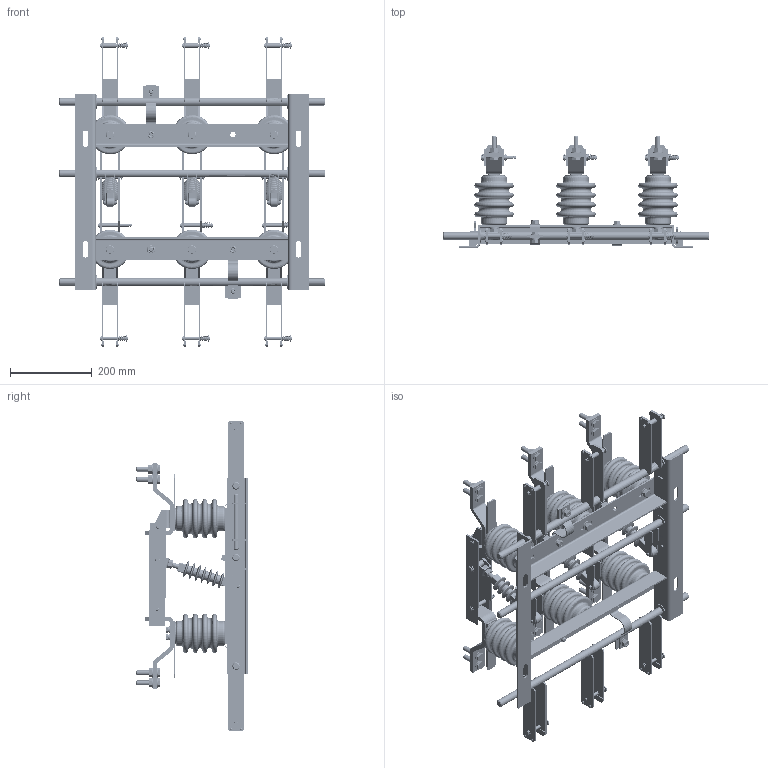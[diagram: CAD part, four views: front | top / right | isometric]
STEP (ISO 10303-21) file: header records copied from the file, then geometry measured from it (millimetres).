
FILE_DESCRIPTION (( 'STEP AP214' ), '1' );
FILE_NAME ('Ðàçúåäèíèòåëü âûñîêîâîëüòíûé ÐÂÇ-101000-III-ÓÕË2.STEP', '2023-02-06T06:42:14', ( '' ), ( '' ), 'SwSTEP 2.0', 'SolidWorks 2018', '' );
FILE_SCHEMA (( 'AUTOMOTIVE_DESIGN' ));
Length unit declared in the file: millimetre
Products named in the file (1): Ðàçúåäèíèòåëü âûñîêîâîëüòíûé ÐÂÇ-101000-III-ÓÕË2
Bounding box: 650 x 271 x 757.01 mm (x, y, z)
Volume: 6883417.9 mm3; surface area: 1568558.1 mm2
Topology: 1 solids, 1 shells, 2898 faces, 7249 edges, 4640 vertices
Faces by surface type: plane 1773, cylinder 800, cone 169, torus 116, sphere 24, bspline 16
Full cylindrical faces by diameter (mm): 4 x30, 4.249 x2, 5.15 x2, 6.768 x2, 8 x63, 8.2 x5, 8.3 x6, 8.376 x4, 8.4 x16, 8.5 x18, 9 x12, 9.271 x2, 9.283 x7, 9.439 x4, 9.721 x3, 10 x7, 10.5 x8, 11 x4, 12 x35, 12.1 x3, 13 x10, 14.668 x5, 14.799 x8, 16 x16, 18 x6, 18.1 x1, 18.884 x5, 19.043 x4, 20 x8, 20.188 x3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
Entity records: 153845 total; most frequent: CARTESIAN_POINT 56470, DIRECTION 13532, ORIENTED_EDGE 12628, EDGE_CURVE 6314, AXIS2_PLACEMENT_3D 5038, VERTEX_POINT 4383, EDGE_LOOP 4147, LINE 3456
